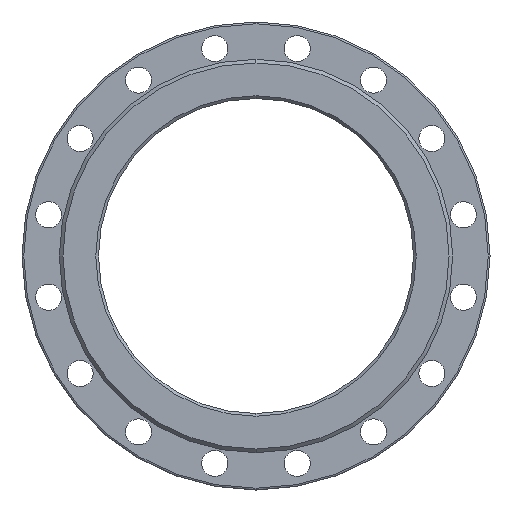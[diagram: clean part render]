
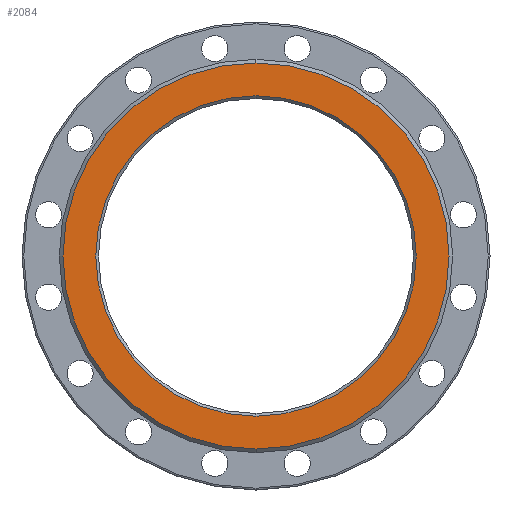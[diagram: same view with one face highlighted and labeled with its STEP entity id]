
A CAD part, left-side view. The second image highlights one B-rep face of the part: STEP entity #2084.
In plain terms, the highlighted planar face has unit normal (-1, 0, 0).
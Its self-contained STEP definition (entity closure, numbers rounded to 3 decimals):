
#27 = DIRECTION ( 'NONE',  ( 0., 0., -1. ) ) ;
#89 = EDGE_CURVE ( 'Defeatured_0_3+Defeatured_0_96+Defeatured_0_96+Defeatured_0_96', #3924, #5410, #2149, .T. ) ;
#400 = CARTESIAN_POINT ( 'NONE',  ( -250., 0., 0. ) ) ;
#426 = ORIENTED_EDGE ( 'NONE', *, *, #89, .T. ) ;
#577 = CARTESIAN_POINT ( 'NONE',  ( -250., 0., -214.5 ) ) ;
#581 = DIRECTION ( 'NONE',  ( 0., 0., 1. ) ) ;
#669 = DIRECTION ( 'NONE',  ( 0., 0., -1. ) ) ;
#878 = DIRECTION ( 'NONE',  ( 1., 0., 0. ) ) ;
#989 = VERTEX_POINT ( 'NONE', #1221 ) ;
#1054 = EDGE_CURVE ( 'Defeatured_0_3+Defeatured_0_4+Defeatured_0_4+Defeatured_0_4', #3695, #989, #3526, .T. ) ;
#1141 = DIRECTION ( 'NONE',  ( 1., 0., 0. ) ) ;
#1158 = DIRECTION ( 'NONE',  ( -1., 0., 0. ) ) ;
#1221 = CARTESIAN_POINT ( 'NONE',  ( -250., 0., 214.5 ) ) ;
#1277 = FACE_OUTER_BOUND ( 'NONE', #5282, .T. ) ;
#1614 = AXIS2_PLACEMENT_3D ( 'NONE', #5052, #1158, #4625 ) ;
#1630 = AXIS2_PLACEMENT_3D ( 'NONE', #3673, #1141, #669 ) ;
#2084 = ADVANCED_FACE ( 'Defeatured_0_3', ( #3948, #1277 ), #3919, .F. ) ;
#2149 = CIRCLE ( 'NONE', #3509, 178. ) ;
#2252 = ORIENTED_EDGE ( 'NONE', *, *, #4213, .T. ) ;
#2436 = CARTESIAN_POINT ( 'NONE',  ( -250., 0., -178. ) ) ;
#2551 = DIRECTION ( 'NONE',  ( 1., 0., 0. ) ) ;
#2615 = EDGE_LOOP ( 'NONE', ( #5447, #426 ) ) ;
#2826 = AXIS2_PLACEMENT_3D ( 'NONE', #4464, #4860, #581 ) ;
#2955 = EDGE_CURVE ( 'Defeatured_0_3+Defeatured_0_96+Defeatured_0_96+Defeatured_0_96', #5410, #3924, #3264, .T. ) ;
#3007 = CARTESIAN_POINT ( 'NONE',  ( -250., 175., 0. ) ) ;
#3264 = CIRCLE ( 'NONE', #1630, 178. ) ;
#3473 = ORIENTED_EDGE ( 'NONE', *, *, #1054, .T. ) ;
#3509 = AXIS2_PLACEMENT_3D ( 'NONE', #400, #2551, #4788 ) ;
#3526 = CIRCLE ( 'NONE', #1614, 214.5 ) ;
#3673 = CARTESIAN_POINT ( 'NONE',  ( -250., 0., 0. ) ) ;
#3695 = VERTEX_POINT ( 'NONE', #577 ) ;
#3919 = PLANE ( 'NONE',  #4897 ) ;
#3924 = VERTEX_POINT ( 'NONE', #2436 ) ;
#3948 = FACE_BOUND ( 'NONE', #2615, .T. ) ;
#4213 = EDGE_CURVE ( 'Defeatured_0_3+Defeatured_0_4+Defeatured_0_4+Defeatured_0_4', #989, #3695, #4465, .T. ) ;
#4349 = CARTESIAN_POINT ( 'NONE',  ( -250., 0., 178. ) ) ;
#4464 = CARTESIAN_POINT ( 'NONE',  ( -250., 0., 0. ) ) ;
#4465 = CIRCLE ( 'NONE', #2826, 214.5 ) ;
#4625 = DIRECTION ( 'NONE',  ( 0., 0., 1. ) ) ;
#4788 = DIRECTION ( 'NONE',  ( 0., 0., -1. ) ) ;
#4860 = DIRECTION ( 'NONE',  ( -1., 0., 0. ) ) ;
#4897 = AXIS2_PLACEMENT_3D ( 'NONE', #3007, #878, #27 ) ;
#5052 = CARTESIAN_POINT ( 'NONE',  ( -250., 0., 0. ) ) ;
#5282 = EDGE_LOOP ( 'NONE', ( #3473, #2252 ) ) ;
#5410 = VERTEX_POINT ( 'NONE', #4349 ) ;
#5447 = ORIENTED_EDGE ( 'NONE', *, *, #2955, .T. ) ;
